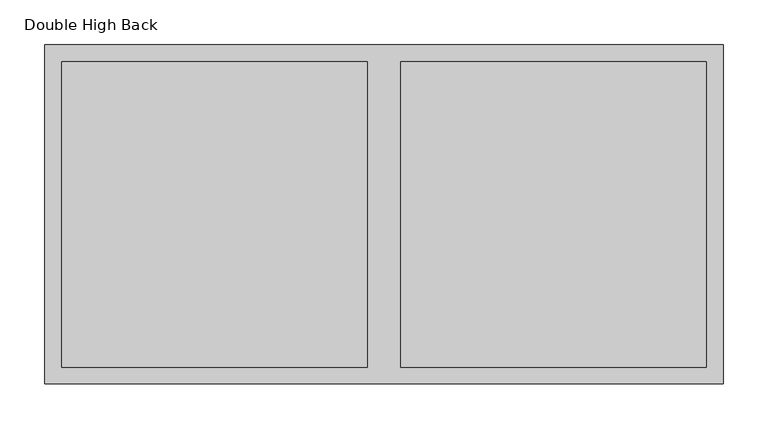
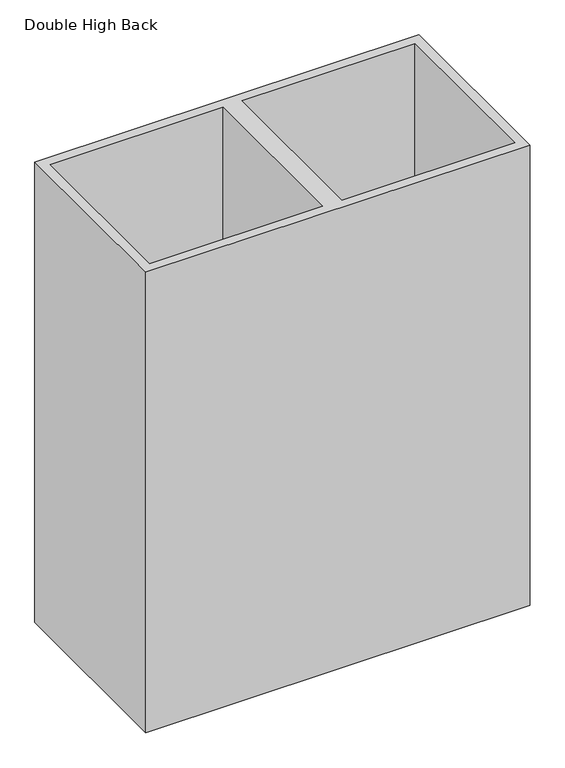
"""IFC4 building model written with IfcOpenShell, lengths in millimetres: furniture geometry, Profim - Lunea - Planter : Double High Back."""

from ifc_helpers import new_model, si_unit, origin, place, context, project, spatial, faceted_brep, source, transform, mapped, element, save


def double_high_back_2cc27aed(model_context):
    return source(origin(), model_context, "Body", "Brep", [
        faceted_brep([(381.0, 190.5, 965.2), (-381.0, 190.5, 965.2), (-381.0, -190.5, 965.2), (381.0, -190.5, 965.2), (19.05, -171.45, 965.2), (19.05, 171.45, 965.2), (361.95, 171.45, 965.2), (361.95, -171.45, 965.2), (-19.05, 171.45, 965.2), (-19.05, -171.45, 965.2), (-361.95, -171.45, 965.2), (-361.95, 171.45, 965.2), (381.0, 190.5, 0.0), (381.0, -190.5, 0.0), (-381.0, -190.5, 0.0), (-381.0, 190.5, 0.0), (19.05, 171.45, 685.8), (19.05, -171.45, 685.8), (361.95, -171.45, 685.8), (361.95, 171.45, 685.8), (-19.05, 171.45, 685.8), (-361.95, 171.45, 685.8), (-361.95, -171.45, 685.8), (-19.05, -171.45, 685.8)], [[[0, 1, 2, 3], [4, 5, 6, 7], [8, 9, 10, 11]], [[12, 13, 14, 15]], [[1, 0, 12, 15]], [[2, 1, 15, 14]], [[3, 2, 14, 13]], [[0, 3, 13, 12]], [[16, 17, 18, 19]], [[17, 16, 5, 4]], [[18, 17, 4, 7]], [[19, 18, 7, 6]], [[16, 19, 6, 5]], [[20, 21, 22, 23]], [[20, 23, 9, 8]], [[23, 22, 10, 9]], [[22, 21, 11, 10]], [[21, 20, 8, 11]]]),
    ])


if __name__ == "__main__":
    model = new_model("IFC4")
    model_context = context("Model", 3, world=origin())
    ifc_project = project(units=[si_unit("LENGTHUNIT", "METRE", prefix="MILLI")], contexts=[model_context])
    site = spatial("IfcSite", under=ifc_project)
    building = spatial("IfcBuilding", under=site)
    placement = place(None, origin())
    double_high_back_shape = double_high_back_2cc27aed(model_context)
    element("IfcFurniture", 1, ObjectType="Profim - Lunea - Planter : Double High Back", at=placement, inside=building, context=model_context, shape_type="MappedRepresentation", body=[
        mapped(double_high_back_shape, transform((0.0, 0.0, 0.0), x_axis=(1.0, 0.0, 0.0), y_axis=(0.0, 1.0, 0.0), z_axis=(0.0, 0.0, 1.0))),
    ])
    save(model, "model.ifc")
